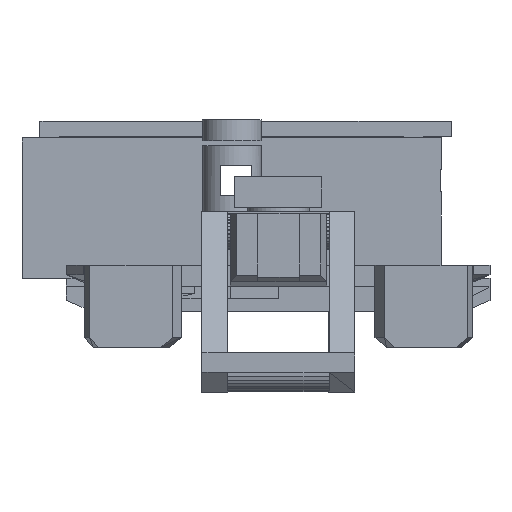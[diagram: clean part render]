
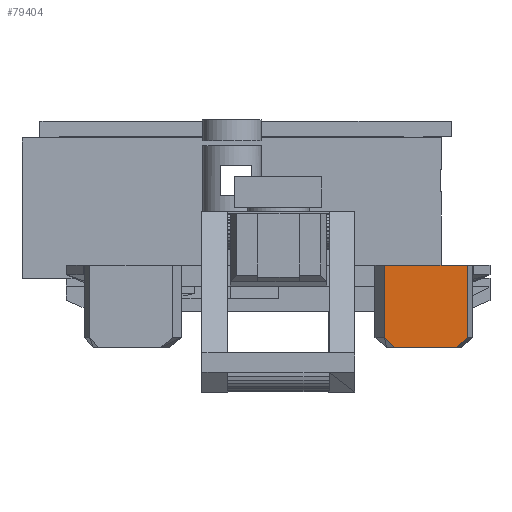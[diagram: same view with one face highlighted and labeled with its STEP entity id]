
A CAD part, left-side view. The second image highlights one B-rep face of the part: STEP entity #79404.
In plain terms, the highlighted planar face has unit normal (-1, 0, 0).
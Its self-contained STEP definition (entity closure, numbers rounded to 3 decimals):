
#70 = PLANE('',#71);
#71 = AXIS2_PLACEMENT_3D('',#72,#73,#74);
#72 = CARTESIAN_POINT('',(-40.,-25.,6.4));
#73 = DIRECTION('',(0.,0.,1.));
#74 = DIRECTION('',(1.,0.,-0.));
#208 = VERTEX_POINT('',#209);
#209 = CARTESIAN_POINT('',(-18.527,-8.261,6.4));
#223 = PLANE('',#224);
#224 = AXIS2_PLACEMENT_3D('',#225,#226,#227);
#225 = CARTESIAN_POINT('',(-18.227,-8.058,9.931
    ));
#226 = DIRECTION('',(-0.56,0.829,0.));
#227 = DIRECTION('',(0.829,0.56,0.));
#235 = EDGE_CURVE('',#236,#208,#238,.T.);
#236 = VERTEX_POINT('',#237);
#237 = CARTESIAN_POINT('',(-18.527,-14.707,6.4));
#238 = SURFACE_CURVE('',#239,(#243,#250),.PCURVE_S1.);
#239 = LINE('',#240,#241);
#240 = CARTESIAN_POINT('',(-18.527,-19.765,6.4));
#241 = VECTOR('',#242,1.);
#242 = DIRECTION('',(0.,1.,0.));
#243 = PCURVE('',#70,#244);
#244 = DEFINITIONAL_REPRESENTATION('',(#245),#249);
#245 = LINE('',#246,#247);
#246 = CARTESIAN_POINT('',(21.473,5.235));
#247 = VECTOR('',#248,1.);
#248 = DIRECTION('',(0.,1.));
#249 = ( GEOMETRIC_REPRESENTATION_CONTEXT(2) 
PARAMETRIC_REPRESENTATION_CONTEXT() REPRESENTATION_CONTEXT('2D SPACE',''
  ) );
#250 = PCURVE('',#251,#256);
#251 = PLANE('',#252);
#252 = AXIS2_PLACEMENT_3D('',#253,#254,#255);
#253 = CARTESIAN_POINT('',(-18.527,-14.531,
    10.066));
#254 = DIRECTION('',(-1.,-0.,-0.));
#255 = DIRECTION('',(0.,0.,-1.));
#256 = DEFINITIONAL_REPRESENTATION('',(#257),#261);
#257 = LINE('',#258,#259);
#258 = CARTESIAN_POINT('',(3.666,5.235));
#259 = VECTOR('',#260,1.);
#260 = DIRECTION('',(0.,-1.));
#261 = ( GEOMETRIC_REPRESENTATION_CONTEXT(2) 
PARAMETRIC_REPRESENTATION_CONTEXT() REPRESENTATION_CONTEXT('2D SPACE',''
  ) );
#279 = PLANE('',#280);
#280 = AXIS2_PLACEMENT_3D('',#281,#282,#283);
#281 = CARTESIAN_POINT('',(-18.23,-14.82,
    10.487));
#282 = DIRECTION('',(-0.355,-0.935,-0.));
#283 = DIRECTION('',(-0.935,0.355,0.));
#44561 = PLANE('',#44562);
#44562 = AXIS2_PLACEMENT_3D('',#44563,#44564,#44565);
#44563 = CARTESIAN_POINT('',(-16.37,-9.793,0.));
#44564 = DIRECTION('',(-0.,-0.,-1.));
#44565 = DIRECTION('',(-1.,0.,0.));
#44681 = VERTEX_POINT('',#44682);
#44682 = CARTESIAN_POINT('',(-18.527,-13.847,0.));
#44708 = EDGE_CURVE('',#44681,#44709,#44711,.T.);
#44709 = VERTEX_POINT('',#44710);
#44710 = CARTESIAN_POINT('',(-18.527,-9.087,0.));
#44711 = SURFACE_CURVE('',#44712,(#44716,#44723),.PCURVE_S1.);
#44712 = LINE('',#44713,#44714);
#44713 = CARTESIAN_POINT('',(-18.527,-13.847,0.));
#44714 = VECTOR('',#44715,1.);
#44715 = DIRECTION('',(0.,1.,0.));
#44716 = PCURVE('',#44561,#44717);
#44717 = DEFINITIONAL_REPRESENTATION('',(#44718),#44722);
#44718 = LINE('',#44719,#44720);
#44719 = CARTESIAN_POINT('',(2.157,-4.054));
#44720 = VECTOR('',#44721,1.);
#44721 = DIRECTION('',(0.,1.));
#44722 = ( GEOMETRIC_REPRESENTATION_CONTEXT(2) 
PARAMETRIC_REPRESENTATION_CONTEXT() REPRESENTATION_CONTEXT('2D SPACE',''
  ) );
#44723 = PCURVE('',#251,#44724);
#44724 = DEFINITIONAL_REPRESENTATION('',(#44725),#44729);
#44725 = LINE('',#44726,#44727);
#44726 = CARTESIAN_POINT('',(10.066,-0.684));
#44727 = VECTOR('',#44728,1.);
#44728 = DIRECTION('',(0.,-1.));
#44729 = ( GEOMETRIC_REPRESENTATION_CONTEXT(2) 
PARAMETRIC_REPRESENTATION_CONTEXT() REPRESENTATION_CONTEXT('2D SPACE',''
  ) );
#44747 = PLANE('',#44748);
#44748 = AXIS2_PLACEMENT_3D('',#44749,#44750,#44751);
#44749 = CARTESIAN_POINT('',(-18.148,-8.584,
    0.257));
#44750 = DIRECTION('',(-0.384,0.633,-0.672));
#44751 = DIRECTION('',(0.,-0.728,
    -0.686));
#44847 = VERTEX_POINT('',#44848);
#44848 = CARTESIAN_POINT('',(-18.527,-8.261,
    0.778));
#44944 = EDGE_CURVE('',#44847,#44709,#44945,.T.);
#44945 = SURFACE_CURVE('',#44946,(#44950,#44957),.PCURVE_S1.);
#44946 = LINE('',#44947,#44948);
#44947 = CARTESIAN_POINT('',(-18.527,-8.261,
    0.778));
#44948 = VECTOR('',#44949,1.);
#44949 = DIRECTION('',(0.,-0.728,-0.686));
#44950 = PCURVE('',#44747,#44951);
#44951 = DEFINITIONAL_REPRESENTATION('',(#44952),#44956);
#44952 = LINE('',#44953,#44954);
#44953 = CARTESIAN_POINT('',(-0.592,0.41));
#44954 = VECTOR('',#44955,1.);
#44955 = DIRECTION('',(1.,0.));
#44956 = ( GEOMETRIC_REPRESENTATION_CONTEXT(2) 
PARAMETRIC_REPRESENTATION_CONTEXT() REPRESENTATION_CONTEXT('2D SPACE',''
  ) );
#44957 = PCURVE('',#251,#44958);
#44958 = DEFINITIONAL_REPRESENTATION('',(#44959),#44963);
#44959 = LINE('',#44960,#44961);
#44960 = CARTESIAN_POINT('',(9.288,-6.27));
#44961 = VECTOR('',#44962,1.);
#44962 = DIRECTION('',(0.686,0.728));
#44963 = ( GEOMETRIC_REPRESENTATION_CONTEXT(2) 
PARAMETRIC_REPRESENTATION_CONTEXT() REPRESENTATION_CONTEXT('2D SPACE',''
  ) );
#45011 = PLANE('',#45012);
#45012 = AXIS2_PLACEMENT_3D('',#45013,#45014,#45015);
#45013 = CARTESIAN_POINT('',(-18.135,-14.546,
    0.497));
#45014 = DIRECTION('',(-0.247,-0.65,-0.719)
  );
#45015 = DIRECTION('',(0.,-0.742,
    0.671));
#45028 = VERTEX_POINT('',#45029);
#45029 = CARTESIAN_POINT('',(-18.527,-14.707,
    0.778));
#45050 = EDGE_CURVE('',#44681,#45028,#45051,.T.);
#45051 = SURFACE_CURVE('',#45052,(#45056,#45063),.PCURVE_S1.);
#45052 = LINE('',#45053,#45054);
#45053 = CARTESIAN_POINT('',(-18.527,-13.847,0.));
#45054 = VECTOR('',#45055,1.);
#45055 = DIRECTION('',(0.,-0.742,0.671));
#45056 = PCURVE('',#45011,#45057);
#45057 = DEFINITIONAL_REPRESENTATION('',(#45058),#45062);
#45058 = LINE('',#45059,#45060);
#45059 = CARTESIAN_POINT('',(-0.852,0.404));
#45060 = VECTOR('',#45061,1.);
#45061 = DIRECTION('',(1.,0.));
#45062 = ( GEOMETRIC_REPRESENTATION_CONTEXT(2) 
PARAMETRIC_REPRESENTATION_CONTEXT() REPRESENTATION_CONTEXT('2D SPACE',''
  ) );
#45063 = PCURVE('',#251,#45064);
#45064 = DEFINITIONAL_REPRESENTATION('',(#45065),#45069);
#45065 = LINE('',#45066,#45067);
#45066 = CARTESIAN_POINT('',(10.066,-0.684));
#45067 = VECTOR('',#45068,1.);
#45068 = DIRECTION('',(-0.671,0.742));
#45069 = ( GEOMETRIC_REPRESENTATION_CONTEXT(2) 
PARAMETRIC_REPRESENTATION_CONTEXT() REPRESENTATION_CONTEXT('2D SPACE',''
  ) );
#79354 = EDGE_CURVE('',#236,#45028,#79355,.T.);
#79355 = SURFACE_CURVE('',#79356,(#79360,#79367),.PCURVE_S1.);
#79356 = LINE('',#79357,#79358);
#79357 = CARTESIAN_POINT('',(-18.527,-14.707,
    13.284));
#79358 = VECTOR('',#79359,1.);
#79359 = DIRECTION('',(0.,0.,-1.));
#79360 = PCURVE('',#279,#79361);
#79361 = DEFINITIONAL_REPRESENTATION('',(#79362),#79366);
#79362 = LINE('',#79363,#79364);
#79363 = CARTESIAN_POINT('',(0.318,-2.797));
#79364 = VECTOR('',#79365,1.);
#79365 = DIRECTION('',(0.,1.));
#79366 = ( GEOMETRIC_REPRESENTATION_CONTEXT(2) 
PARAMETRIC_REPRESENTATION_CONTEXT() REPRESENTATION_CONTEXT('2D SPACE',''
  ) );
#79367 = PCURVE('',#251,#79368);
#79368 = DEFINITIONAL_REPRESENTATION('',(#79369),#79373);
#79369 = LINE('',#79370,#79371);
#79370 = CARTESIAN_POINT('',(-3.218,0.176));
#79371 = VECTOR('',#79372,1.);
#79372 = DIRECTION('',(1.,0.));
#79373 = ( GEOMETRIC_REPRESENTATION_CONTEXT(2) 
PARAMETRIC_REPRESENTATION_CONTEXT() REPRESENTATION_CONTEXT('2D SPACE',''
  ) );
#79404 = ADVANCED_FACE('',(#79405),#251,.T.);
#79405 = FACE_BOUND('',#79406,.T.);
#79406 = EDGE_LOOP('',(#79407,#79408,#79409,#79430,#79431,#79432));
#79407 = ORIENTED_EDGE('',*,*,#79354,.F.);
#79408 = ORIENTED_EDGE('',*,*,#235,.T.);
#79409 = ORIENTED_EDGE('',*,*,#79410,.T.);
#79410 = EDGE_CURVE('',#208,#44847,#79411,.T.);
#79411 = SURFACE_CURVE('',#79412,(#79416,#79423),.PCURVE_S1.);
#79412 = LINE('',#79413,#79414);
#79413 = CARTESIAN_POINT('',(-18.527,-8.261,
    13.284));
#79414 = VECTOR('',#79415,1.);
#79415 = DIRECTION('',(0.,0.,-1.));
#79416 = PCURVE('',#251,#79417);
#79417 = DEFINITIONAL_REPRESENTATION('',(#79418),#79422);
#79418 = LINE('',#79419,#79420);
#79419 = CARTESIAN_POINT('',(-3.218,-6.27));
#79420 = VECTOR('',#79421,1.);
#79421 = DIRECTION('',(1.,0.));
#79422 = ( GEOMETRIC_REPRESENTATION_CONTEXT(2) 
PARAMETRIC_REPRESENTATION_CONTEXT() REPRESENTATION_CONTEXT('2D SPACE',''
  ) );
#79423 = PCURVE('',#223,#79424);
#79424 = DEFINITIONAL_REPRESENTATION('',(#79425),#79429);
#79425 = LINE('',#79426,#79427);
#79426 = CARTESIAN_POINT('',(-0.362,-3.353));
#79427 = VECTOR('',#79428,1.);
#79428 = DIRECTION('',(0.,1.));
#79429 = ( GEOMETRIC_REPRESENTATION_CONTEXT(2) 
PARAMETRIC_REPRESENTATION_CONTEXT() REPRESENTATION_CONTEXT('2D SPACE',''
  ) );
#79430 = ORIENTED_EDGE('',*,*,#44944,.T.);
#79431 = ORIENTED_EDGE('',*,*,#44708,.F.);
#79432 = ORIENTED_EDGE('',*,*,#45050,.T.);
